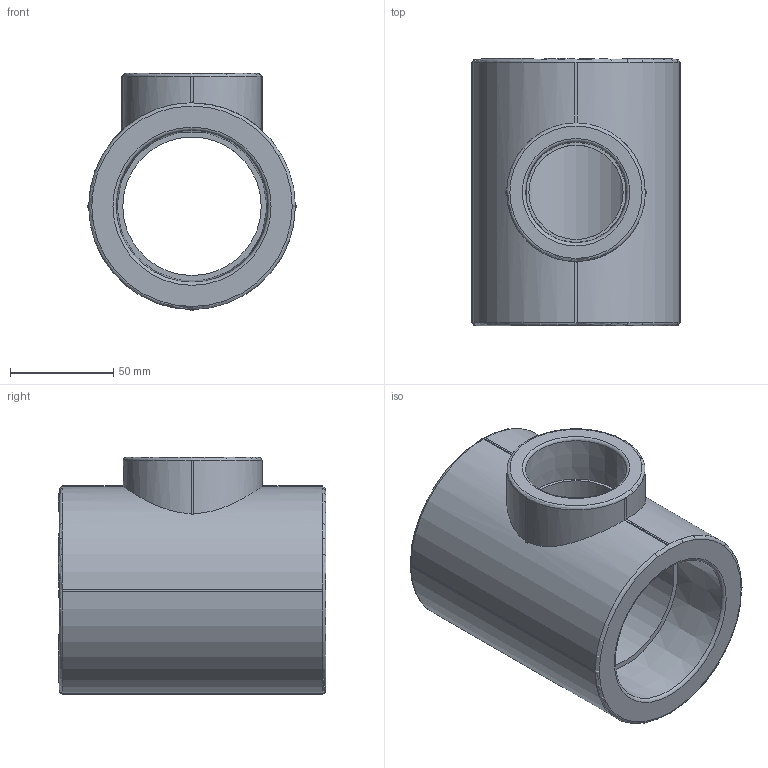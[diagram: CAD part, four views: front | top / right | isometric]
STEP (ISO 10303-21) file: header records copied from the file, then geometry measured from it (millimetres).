
FILE_DESCRIPTION(('STEP AP203'), '1');
FILE_NAME('ÂÐ.752241.073 - VTp.735.0.075050075', '', ('UNSPECIFIED'), ('UNSPECIFIED'), 'C3D Converter', 'C3D Toolkit', '');
FILE_SCHEMA(('CONFIG_CONTROL_DESIGN'));
Length unit declared in the file: millimetre
Products named in the file (1): ВР.752241.073
Bounding box: 101 x 129.5 x 114.8 mm (x, y, z)
Volume: 519030.2 mm3; surface area: 83035.8 mm2
Topology: 1 solids, 1 shells, 1103 faces, 3095 edges, 2055 vertices
Faces by surface type: extrusion 642, plane 417, cylinder 35, torus 6, cone 3
Full cylindrical faces by diameter (mm): 8 x1, 45.6 x1, 67 x1
Entity records: 41168 total; most frequent: CARTESIAN_POINT 16100, ORIENTED_EDGE 6166, DIRECTION 3113, EDGE_CURVE 3083, VECTOR 2099, VERTEX_POINT 2055, B_SPLINE_CURVE_WITH_KNOTS 1933, LINE 1457
